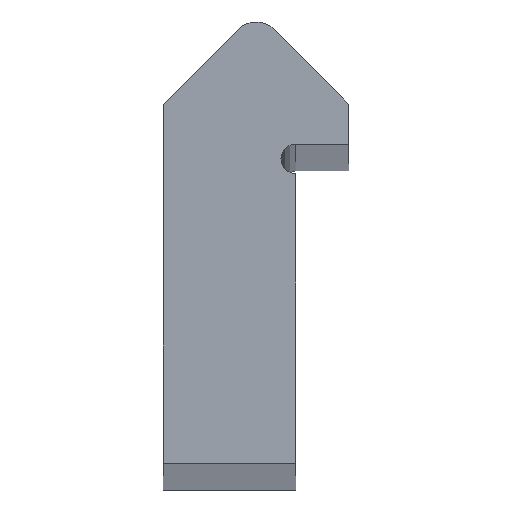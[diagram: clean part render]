
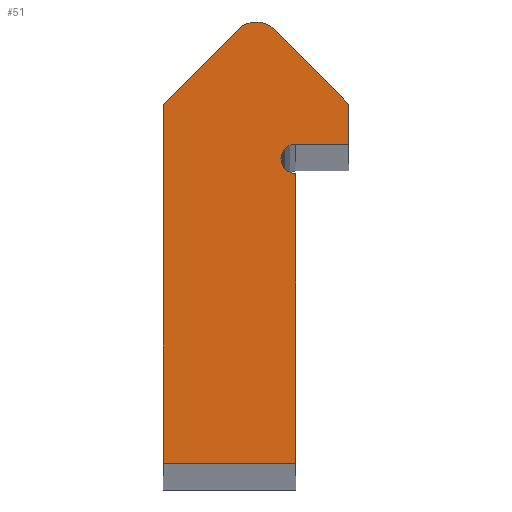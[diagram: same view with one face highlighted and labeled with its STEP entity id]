
A CAD part, top view. The second image highlights one B-rep face of the part: STEP entity #51.
In plain terms, the highlighted planar face has unit normal (0, 0, 1).
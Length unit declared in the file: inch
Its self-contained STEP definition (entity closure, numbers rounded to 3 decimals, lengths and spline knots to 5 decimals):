
#51 = ADVANCED_FACE( '', ( #98 ), #99, .T. );
#98 = FACE_OUTER_BOUND( '', #138, .T. );
#99 = PLANE( '', #139 );
#138 = EDGE_LOOP( '', ( #212, #213, #214, #215, #216, #217, #218, #219, #220 ) );
#139 = AXIS2_PLACEMENT_3D( '', #221, #222, #223 );
#212 = ORIENTED_EDGE( '', *, *, #268, .T. );
#213 = ORIENTED_EDGE( '', *, *, #273, .T. );
#214 = ORIENTED_EDGE( '', *, *, #260, .T. );
#215 = ORIENTED_EDGE( '', *, *, #251, .T. );
#216 = ORIENTED_EDGE( '', *, *, #264, .F. );
#217 = ORIENTED_EDGE( '', *, *, #276, .T. );
#218 = ORIENTED_EDGE( '', *, *, #256, .T. );
#219 = ORIENTED_EDGE( '', *, *, #246, .T. );
#220 = ORIENTED_EDGE( '', *, *, #279, .T. );
#221 = CARTESIAN_POINT( '', ( 0.312, 0.715, 0. ) );
#222 = DIRECTION( '', ( 0., 0., 1. ) );
#223 = DIRECTION( '', ( 1., 0., 0. ) );
#246 = EDGE_CURVE( '', #284, #285, #286, .T. );
#251 = EDGE_CURVE( '', #293, #294, #295, .T. );
#256 = EDGE_CURVE( '', #302, #284, #303, .T. );
#260 = EDGE_CURVE( '', #308, #293, #309, .T. );
#264 = EDGE_CURVE( '', #314, #294, #315, .T. );
#268 = EDGE_CURVE( '', #320, #321, #322, .T. );
#273 = EDGE_CURVE( '', #321, #308, #329, .T. );
#276 = EDGE_CURVE( '', #314, #302, #332, .T. );
#279 = EDGE_CURVE( '', #285, #320, #335, .T. );
#284 = VERTEX_POINT( '', #340 );
#285 = VERTEX_POINT( '', #341 );
#286 = LINE( '', #342, #343 );
#293 = VERTEX_POINT( '', #353 );
#294 = VERTEX_POINT( '', #354 );
#295 = LINE( '', #355, #356 );
#302 = VERTEX_POINT( '', #366 );
#303 = LINE( '', #367, #368 );
#308 = VERTEX_POINT( '', #375 );
#309 = LINE( '', #376, #377 );
#314 = VERTEX_POINT( '', #384 );
#315 = CIRCLE( '', #385, 0.035 );
#320 = VERTEX_POINT( '', #391 );
#321 = VERTEX_POINT( '', #392 );
#322 = LINE( '', #393, #394 );
#329 = LINE( '', #404, #405 );
#332 = LINE( '', #409, #410 );
#335 = CIRCLE( '', #414, 0.06 );
#340 = CARTESIAN_POINT( '', ( 0.437, 0.844, 0. ) );
#341 = CARTESIAN_POINT( '', ( 0.26143, 1.01957, 0. ) );
#342 = CARTESIAN_POINT( '', ( 0.437, 0.844, 0. ) );
#343 = VECTOR( '', #418, 39.37008 );
#353 = CARTESIAN_POINT( '', ( 0.312, 0., 0. ) );
#354 = CARTESIAN_POINT( '', ( 0.312, 0.68, 0. ) );
#355 = CARTESIAN_POINT( '', ( 0.312, 0., 0. ) );
#356 = VECTOR( '', #422, 39.37008 );
#366 = CARTESIAN_POINT( '', ( 0.437, 0.75, 0. ) );
#367 = CARTESIAN_POINT( '', ( 0.437, 0.75, 0. ) );
#368 = VECTOR( '', #426, 39.37008 );
#375 = CARTESIAN_POINT( '', ( 0., 0., 0. ) );
#376 = CARTESIAN_POINT( '', ( 0., 0., 0. ) );
#377 = VECTOR( '', #429, 39.37008 );
#384 = CARTESIAN_POINT( '', ( 0.312, 0.75, 0. ) );
#385 = AXIS2_PLACEMENT_3D( '', #432, #433, #434 );
#391 = CARTESIAN_POINT( '', ( 0.17657, 1.01957, 0. ) );
#392 = CARTESIAN_POINT( '', ( 0., 0.843, 0. ) );
#393 = CARTESIAN_POINT( '', ( 0.17657, 1.01957, 0. ) );
#394 = VECTOR( '', #439, 39.37008 );
#404 = CARTESIAN_POINT( '', ( 0., 0.843, 0. ) );
#405 = VECTOR( '', #443, 39.37008 );
#409 = CARTESIAN_POINT( '', ( 0.312, 0.75, 0. ) );
#410 = VECTOR( '', #445, 39.37008 );
#414 = AXIS2_PLACEMENT_3D( '', #447, #448, #449 );
#418 = DIRECTION( '', ( -0.707, 0.707, 0. ) );
#422 = DIRECTION( '', ( 0., 1., 0. ) );
#426 = DIRECTION( '', ( 0., 1., 0. ) );
#429 = DIRECTION( '', ( 1., 0., 0. ) );
#432 = CARTESIAN_POINT( '', ( 0.312, 0.715, 0. ) );
#433 = DIRECTION( '', ( 0., 0., 1. ) );
#434 = DIRECTION( '', ( 1., 0., 0. ) );
#439 = DIRECTION( '', ( -0.707, -0.707, 0. ) );
#443 = DIRECTION( '', ( 0., -1., 0. ) );
#445 = DIRECTION( '', ( 1., 0., 0. ) );
#447 = CARTESIAN_POINT( '', ( 0.219, 0.97715, 0. ) );
#448 = DIRECTION( '', ( 0., 0., 1. ) );
#449 = DIRECTION( '', ( 1., 0., 0. ) );
